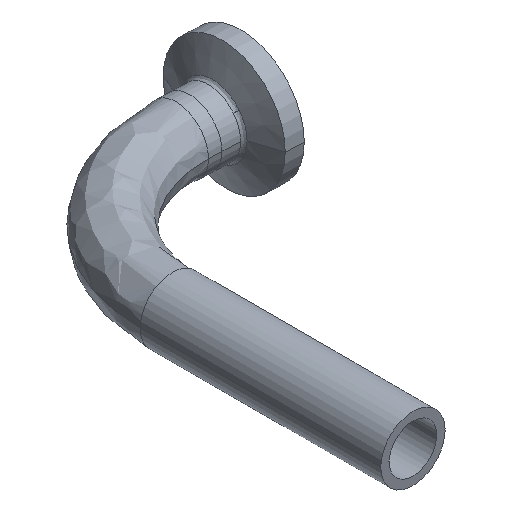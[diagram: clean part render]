
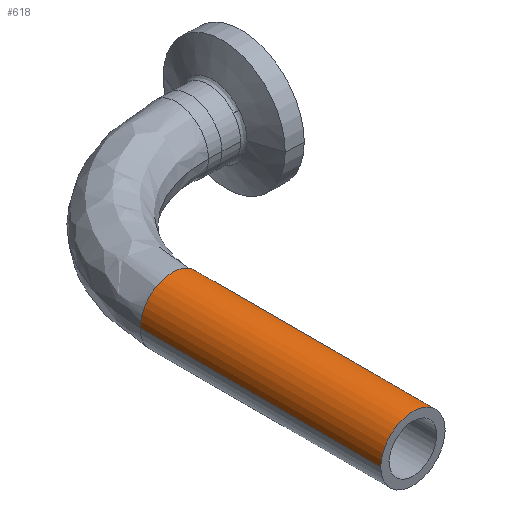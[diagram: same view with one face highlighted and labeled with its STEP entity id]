
A CAD part, isometric view. The second image highlights one B-rep face of the part: STEP entity #618.
In plain terms, the highlighted cylindrical face has radius 6.35 mm (diameter 12.7 mm), a partial arc.
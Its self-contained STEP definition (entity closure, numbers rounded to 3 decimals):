
#28 = CARTESIAN_POINT ( 'NONE',  ( 6.35, 47.546, 0. ) ) ;
#43 = EDGE_CURVE ( 'NONE', #174, #146, #771, .T. ) ;
#61 = FACE_OUTER_BOUND ( 'NONE', #228, .T. ) ;
#119 = VECTOR ( 'NONE', #1228, 1000. ) ;
#146 = VERTEX_POINT ( 'NONE', #405 ) ;
#174 = VERTEX_POINT ( 'NONE', #389 ) ;
#224 = CIRCLE ( 'NONE', #1082, 6.35 ) ;
#228 = EDGE_LOOP ( 'NONE', ( #532, #404, #1199, #950 ) ) ;
#264 = VERTEX_POINT ( 'NONE', #28 ) ;
#321 = VECTOR ( 'NONE', #1106, 1000. ) ;
#331 = DIRECTION ( 'NONE',  ( 1., 0., 0. ) ) ;
#389 = CARTESIAN_POINT ( 'NONE',  ( -6.35, 0., 0. ) ) ;
#401 = DIRECTION ( 'NONE',  ( 0., -1., 0. ) ) ;
#404 = ORIENTED_EDGE ( 'NONE', *, *, #736, .T. ) ;
#405 = CARTESIAN_POINT ( 'NONE',  ( 6.35, 0., 0. ) ) ;
#407 = CARTESIAN_POINT ( 'NONE',  ( 0., 47.546, 0. ) ) ;
#417 = CYLINDRICAL_SURFACE ( 'NONE', #1201, 6.35 ) ;
#532 = ORIENTED_EDGE ( 'NONE', *, *, #1076, .T. ) ;
#585 = LINE ( 'NONE', #1169, #321 ) ;
#618 = ADVANCED_FACE ( 'NONE', ( #61 ), #417, .T. ) ;
#623 = CARTESIAN_POINT ( 'NONE',  ( -6.35, 47.546, 0. ) ) ;
#708 = LINE ( 'NONE', #1155, #119 ) ;
#736 = EDGE_CURVE ( 'NONE', #909, #174, #585, .T. ) ;
#771 = CIRCLE ( 'NONE', #813, 6.35 ) ;
#797 = DIRECTION ( 'NONE',  ( 1., 0., 0. ) ) ;
#803 = DIRECTION ( 'NONE',  ( 0., 1., 0. ) ) ;
#809 = CARTESIAN_POINT ( 'NONE',  ( 0., 0., 0. ) ) ;
#813 = AXIS2_PLACEMENT_3D ( 'NONE', #809, #803, #797 ) ;
#909 = VERTEX_POINT ( 'NONE', #623 ) ;
#950 = ORIENTED_EDGE ( 'NONE', *, *, #1062, .F. ) ;
#1062 = EDGE_CURVE ( 'NONE', #264, #146, #708, .T. ) ;
#1076 = EDGE_CURVE ( 'NONE', #264, #909, #224, .T. ) ;
#1082 = AXIS2_PLACEMENT_3D ( 'NONE', #407, #401, #331 ) ;
#1106 = DIRECTION ( 'NONE',  ( 0., -1., 0. ) ) ;
#1155 = CARTESIAN_POINT ( 'NONE',  ( 6.35, 47.546, 0. ) ) ;
#1169 = CARTESIAN_POINT ( 'NONE',  ( -6.35, 47.546, 0. ) ) ;
#1199 = ORIENTED_EDGE ( 'NONE', *, *, #43, .T. ) ;
#1201 = AXIS2_PLACEMENT_3D ( 'NONE', #1267, #1262, #1250 ) ;
#1228 = DIRECTION ( 'NONE',  ( 0., -1., 0. ) ) ;
#1250 = DIRECTION ( 'NONE',  ( 1., 0., 0. ) ) ;
#1262 = DIRECTION ( 'NONE',  ( 0., -1., 0. ) ) ;
#1267 = CARTESIAN_POINT ( 'NONE',  ( 0., 47.546, 0. ) ) ;
